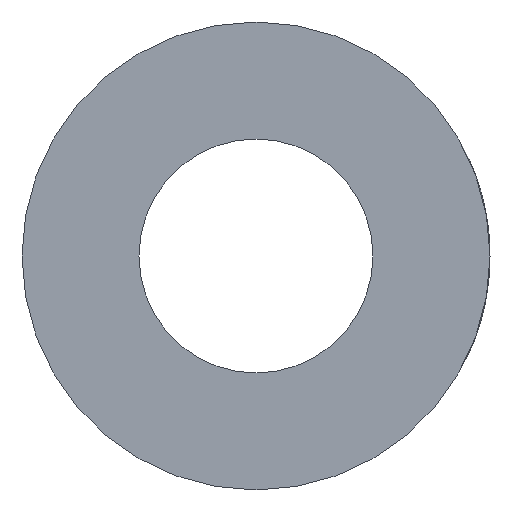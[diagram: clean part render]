
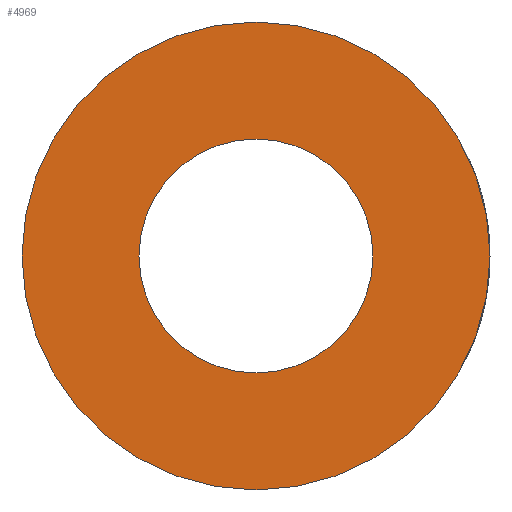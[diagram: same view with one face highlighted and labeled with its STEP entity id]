
A CAD part, left-side view. The second image highlights one B-rep face of the part: STEP entity #4969.
In plain terms, the highlighted planar face has unit normal (-1, 0, 0).
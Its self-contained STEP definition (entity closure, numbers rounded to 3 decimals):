
#106=PLANE('',#5353);
#341=CIRCLE('',#5348,4.);
#346=CIRCLE('',#5354,2.);
#1516=ORIENTED_EDGE('',*,*,#3028,.T.);
#1517=ORIENTED_EDGE('',*,*,#3014,.F.);
#3014=EDGE_CURVE('',#3770,#3770,#341,.T.);
#3028=EDGE_CURVE('',#3784,#3784,#346,.T.);
#3770=VERTEX_POINT('',#7608);
#3784=VERTEX_POINT('',#7652);
#4267=EDGE_LOOP('',(#1516));
#4268=EDGE_LOOP('',(#1517));
#4613=FACE_BOUND('',#4267,.T.);
#4614=FACE_BOUND('',#4268,.T.);
#4969=ADVANCED_FACE('',(#4613,#4614),#106,.F.);
#5348=AXIS2_PLACEMENT_3D('',#7607,#5866,#5867);
#5353=AXIS2_PLACEMENT_3D('',#7650,#5880,#5881);
#5354=AXIS2_PLACEMENT_3D('',#7651,#5882,#5883);
#5866=DIRECTION('',(1.,0.,0.));
#5867=DIRECTION('',(0.,0.,-1.));
#5880=DIRECTION('',(1.,0.,0.));
#5881=DIRECTION('',(0.,0.,-1.));
#5882=DIRECTION('',(1.,0.,0.));
#5883=DIRECTION('',(0.,0.,-1.));
#7607=CARTESIAN_POINT('',(-6.,0.,0.));
#7608=CARTESIAN_POINT('',(-6.,0.,-4.));
#7650=CARTESIAN_POINT('',(-6.,0.,0.));
#7651=CARTESIAN_POINT('',(-6.,0.,0.));
#7652=CARTESIAN_POINT('',(-6.,0.,-2.));
